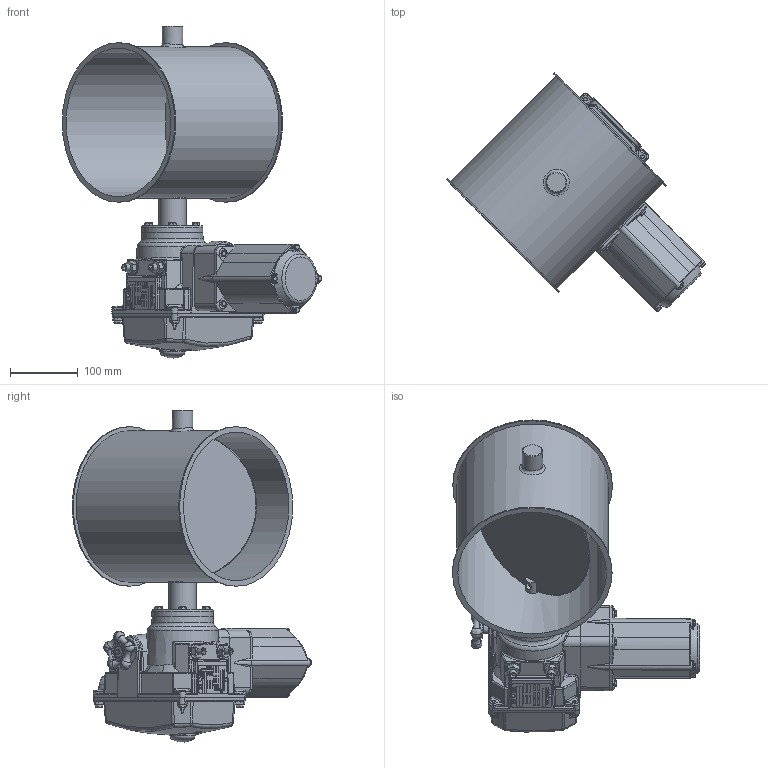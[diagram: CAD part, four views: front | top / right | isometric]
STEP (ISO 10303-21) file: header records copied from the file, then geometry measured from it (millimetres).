
FILE_DESCRIPTION((''),'2;1');
FILE_NAME('U:\Wolfgang\Marcel-3D\fertig\Kapitel 8\2221217.stp','2012-01-13T11:10:43',('iwienholt'),(''),'Autodesk Inventor 2010','Autodesk Inventor 2010','');
FILE_SCHEMA(('AUTOMOTIVE_DESIGN { 1 0 10303 214 1 1 1 1 }'));
Length unit declared in the file: millimetre
Products named in the file (8): 2221217; Bolzen D20; Scheibe224b; 2221211-1; D20 Antrieb LE-10; DIN EN ISO 4018 M6x25; LEB100cc; BuchseD20 90-50
Assembly tree (11 placements, depth 3):
  2221217
    Bolzen D20  x2
    Scheibe224b
    2221211-1
    D20 Antrieb LE-10
      DIN EN ISO 4018 M6x25  x4
      LEB100cc
      BuchseD20 90-50
Bounding box: 382.21 x 352.38 x 488.82 mm (x, y, z)
Volume: 4984351.5 mm3; surface area: 696775.2 mm2
Topology: 10 solids, 10 shells, 1471 faces, 3728 edges, 2346 vertices
Faces by surface type: plane 744, cylinder 282, bspline 235, cone 83, torus 82, sphere 45
Full cylindrical faces by diameter (mm): 5 x4, 5.1 x8, 6 x12, 6.9 x8, 10 x4, 15 x1, 16 x1, 17 x1, 18.6 x2, 20 x4, 20.5 x1, 30 x2, 35 x1, 40 x2, 42 x1, 90 x1, 219 x2, 223 x1, 235 x2
Entity records: 51610 total; most frequent: CARTESIAN_POINT 19278, ORIENTED_EDGE 6696, DIRECTION 5818, EDGE_CURVE 3348, VERTEX_POINT 2203, AXIS2_PLACEMENT_3D 2034, VECTOR 1750, LINE 1750
